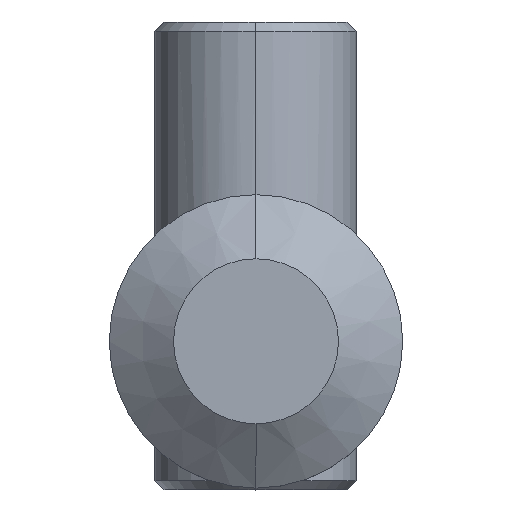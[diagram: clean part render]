
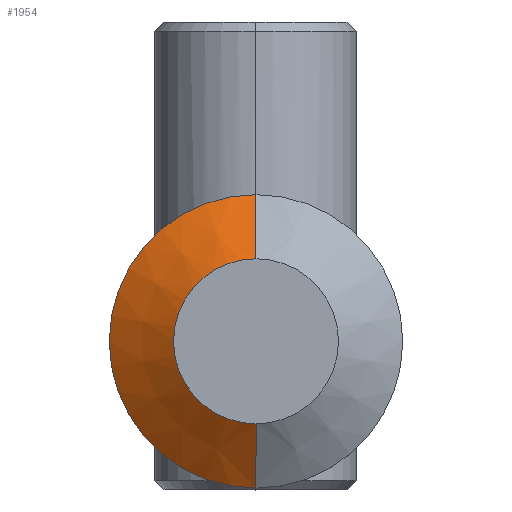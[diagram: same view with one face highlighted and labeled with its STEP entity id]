
A CAD part, top view. The second image highlights one B-rep face of the part: STEP entity #1954.
In plain terms, the highlighted conical face has half-angle 54.462 degrees and reference radius 8 mm.
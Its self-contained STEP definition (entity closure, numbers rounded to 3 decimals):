
#19 = DIRECTION ( 'NONE',  ( 0.814, 0., 0.581 ) ) ;
#37 = CARTESIAN_POINT ( 'NONE',  ( -6.522, -2.141, 0. ) ) ;
#41 = CONICAL_SURFACE ( 'NONE', #2748, 8., 0.951 ) ;
#133 = DIRECTION ( 'NONE',  ( 0., 0., 1. ) ) ;
#139 = AXIS2_PLACEMENT_3D ( 'NONE', #37, #2502, #1410 ) ;
#213 = VERTEX_POINT ( 'NONE', #604 ) ;
#247 = VECTOR ( 'NONE', #2531, 1000. ) ;
#537 = EDGE_CURVE ( 'NONE', #2659, #1027, #856, .T. ) ;
#604 = CARTESIAN_POINT ( 'NONE',  ( 1.478, -2.141, 2.5 ) ) ;
#619 = EDGE_CURVE ( 'NONE', #2659, #1127, #2059, .T. ) ;
#658 = FACE_OUTER_BOUND ( 'NONE', #2598, .T. ) ;
#750 = CIRCLE ( 'NONE', #2593, 8. ) ;
#795 = DIRECTION ( 'NONE',  ( 1., 0., 0. ) ) ;
#856 = LINE ( 'NONE', #2080, #247 ) ;
#1027 = VERTEX_POINT ( 'NONE', #1485 ) ;
#1127 = VERTEX_POINT ( 'NONE', #1335 ) ;
#1335 = CARTESIAN_POINT ( 'NONE',  ( -2.022, -2.141, 0. ) ) ;
#1410 = DIRECTION ( 'NONE',  ( 1., 0., 0. ) ) ;
#1485 = CARTESIAN_POINT ( 'NONE',  ( -14.522, -2.141, 2.5 ) ) ;
#1571 = VECTOR ( 'NONE', #19, 1000. ) ;
#1603 = EDGE_CURVE ( 'NONE', #1127, #213, #2253, .T. ) ;
#1612 = EDGE_CURVE ( 'NONE', #213, #1027, #750, .T. ) ;
#1825 = DIRECTION ( 'NONE',  ( 0., 0., 1. ) ) ;
#1954 = ADVANCED_FACE ( 'NONE', ( #658 ), #41, .T. ) ;
#2044 = CARTESIAN_POINT ( 'NONE',  ( 1.478, -2.141, 2.5 ) ) ;
#2059 = CIRCLE ( 'NONE', #139, 4.5 ) ;
#2080 = CARTESIAN_POINT ( 'NONE',  ( -14.522, -2.141, 2.5 ) ) ;
#2174 = ORIENTED_EDGE ( 'NONE', *, *, #1603, .F. ) ;
#2177 = CARTESIAN_POINT ( 'NONE',  ( -6.522, -2.141, 2.5 ) ) ;
#2253 = LINE ( 'NONE', #2044, #1571 ) ;
#2289 = CARTESIAN_POINT ( 'NONE',  ( -6.522, -2.141, 2.5 ) ) ;
#2364 = ORIENTED_EDGE ( 'NONE', *, *, #619, .F. ) ;
#2501 = DIRECTION ( 'NONE',  ( 1., 0., 0. ) ) ;
#2502 = DIRECTION ( 'NONE',  ( 0., 0., -1. ) ) ;
#2531 = DIRECTION ( 'NONE',  ( -0.814, 0., 0.581 ) ) ;
#2549 = CARTESIAN_POINT ( 'NONE',  ( -11.022, -2.141, 0. ) ) ;
#2593 = AXIS2_PLACEMENT_3D ( 'NONE', #2289, #1825, #2501 ) ;
#2598 = EDGE_LOOP ( 'NONE', ( #2364, #2816, #2612, #2174 ) ) ;
#2612 = ORIENTED_EDGE ( 'NONE', *, *, #1612, .F. ) ;
#2659 = VERTEX_POINT ( 'NONE', #2549 ) ;
#2748 = AXIS2_PLACEMENT_3D ( 'NONE', #2177, #133, #795 ) ;
#2816 = ORIENTED_EDGE ( 'NONE', *, *, #537, .T. ) ;
